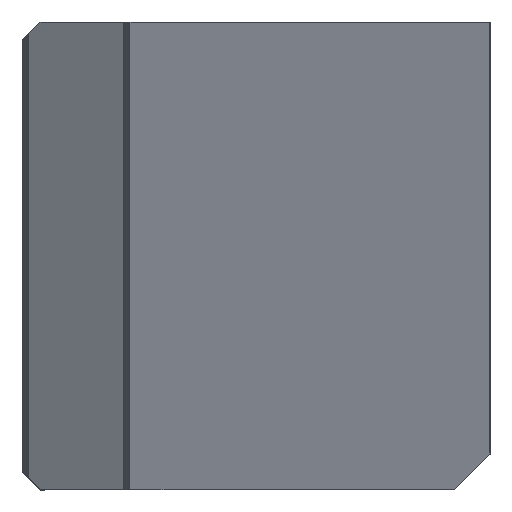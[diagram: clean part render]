
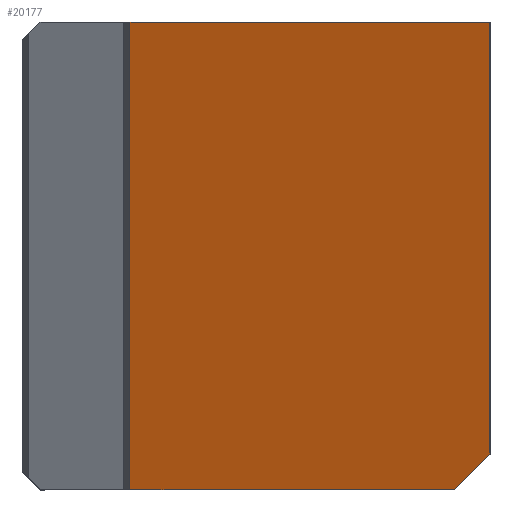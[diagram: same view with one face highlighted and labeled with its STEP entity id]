
A CAD part, left-side view. The second image highlights one B-rep face of the part: STEP entity #20177.
In plain terms, the highlighted planar face has unit normal (-0.943, 0, -0.334).
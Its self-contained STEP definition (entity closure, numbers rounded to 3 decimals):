
#123 = LINE ( 'NONE', #21066, #7681 ) ;
#1578 = DIRECTION ( 'NONE',  ( -0.334, 0., 0.942 ) ) ;
#1680 = EDGE_CURVE ( 'NONE', #38861, #5116, #27526, .T. ) ;
#2564 = CARTESIAN_POINT ( 'NONE',  ( 13.832, 0., -39. ) ) ;
#3172 = ORIENTED_EDGE ( 'NONE', *, *, #3818, .F. ) ;
#3818 = EDGE_CURVE ( 'NONE', #5116, #20970, #19021, .T. ) ;
#4603 = ORIENTED_EDGE ( 'NONE', *, *, #42121, .F. ) ;
#5116 = VERTEX_POINT ( 'NONE', #7837 ) ;
#6552 = DIRECTION ( 'NONE',  ( -0.334, 0., 0.942 ) ) ;
#7681 = VECTOR ( 'NONE', #38620, 1000. ) ;
#7837 = CARTESIAN_POINT ( 'NONE',  ( 0., 0., 0. ) ) ;
#9909 = DIRECTION ( 'NONE',  ( -0.942, 0., -0.334 ) ) ;
#10537 = CARTESIAN_POINT ( 'NONE',  ( 0., 39., 0. ) ) ;
#14703 = DIRECTION ( 'NONE',  ( 0., -1., 0. ) ) ;
#19021 = LINE ( 'NONE', #2564, #35834 ) ;
#20177 = ADVANCED_FACE ( 'NONE', ( #48675 ), #52033, .T. ) ;
#20970 = VERTEX_POINT ( 'NONE', #27034 ) ;
#21066 = CARTESIAN_POINT ( 'NONE',  ( 13.832, 39., -39. ) ) ;
#21159 = ORIENTED_EDGE ( 'NONE', *, *, #21667, .T. ) ;
#21667 = EDGE_CURVE ( 'NONE', #47795, #20970, #35016, .T. ) ;
#22275 = ORIENTED_EDGE ( 'NONE', *, *, #55011, .F. ) ;
#23272 = CARTESIAN_POINT ( 'NONE',  ( 0., 0., 0. ) ) ;
#25685 = VECTOR ( 'NONE', #1578, 1000. ) ;
#27034 = CARTESIAN_POINT ( 'NONE',  ( 12.768, 0., -36. ) ) ;
#27526 = LINE ( 'NONE', #10537, #33036 ) ;
#33036 = VECTOR ( 'NONE', #14703, 1000. ) ;
#33290 = CARTESIAN_POINT ( 'NONE',  ( 13.832, 30., -39. ) ) ;
#35016 = LINE ( 'NONE', #39206, #47538 ) ;
#35834 = VECTOR ( 'NONE', #48593, 1000. ) ;
#36674 = VERTEX_POINT ( 'NONE', #33290 ) ;
#38620 = DIRECTION ( 'NONE',  ( 0., 1., 0. ) ) ;
#38861 = VERTEX_POINT ( 'NONE', #42669 ) ;
#39206 = CARTESIAN_POINT ( 'NONE',  ( 6.006, -19.065, -16.935 ) ) ;
#39785 = CARTESIAN_POINT ( 'NONE',  ( 0., 30., 0. ) ) ;
#40629 = LINE ( 'NONE', #39785, #25685 ) ;
#41007 = EDGE_LOOP ( 'NONE', ( #22275, #21159, #3172, #53964, #4603 ) ) ;
#42121 = EDGE_CURVE ( 'NONE', #36674, #38861, #40629, .T. ) ;
#42669 = CARTESIAN_POINT ( 'NONE',  ( 0., 30., 0. ) ) ;
#43853 = AXIS2_PLACEMENT_3D ( 'NONE', #23272, #9909, #6552 ) ;
#47538 = VECTOR ( 'NONE', #48119, 1000. ) ;
#47795 = VERTEX_POINT ( 'NONE', #49598 ) ;
#48119 = DIRECTION ( 'NONE',  ( -0.243, -0.686, 0.686 ) ) ;
#48593 = DIRECTION ( 'NONE',  ( 0.334, 0., -0.942 ) ) ;
#48675 = FACE_OUTER_BOUND ( 'NONE', #41007, .T. ) ;
#49598 = CARTESIAN_POINT ( 'NONE',  ( 13.832, 3., -39. ) ) ;
#52033 = PLANE ( 'NONE',  #43853 ) ;
#53964 = ORIENTED_EDGE ( 'NONE', *, *, #1680, .F. ) ;
#55011 = EDGE_CURVE ( 'NONE', #47795, #36674, #123, .T. ) ;
